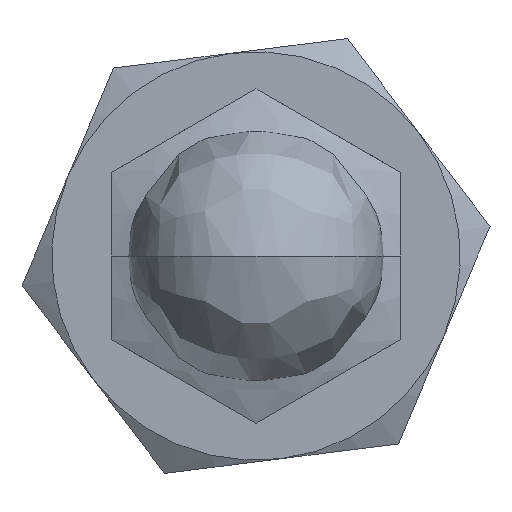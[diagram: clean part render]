
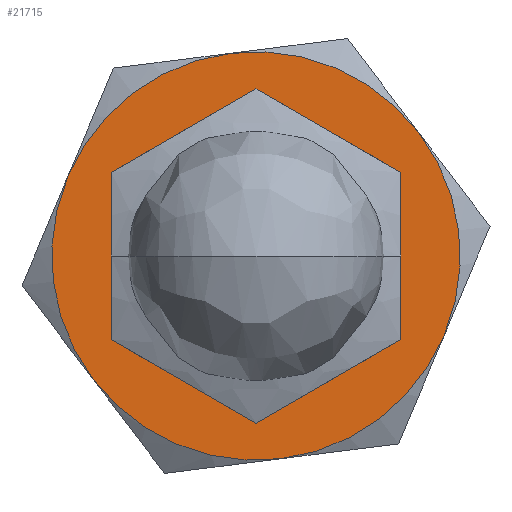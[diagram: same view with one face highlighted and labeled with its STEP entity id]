
A CAD part, front view. The second image highlights one B-rep face of the part: STEP entity #21715.
In plain terms, the highlighted planar face has unit normal (0, -1, 0).
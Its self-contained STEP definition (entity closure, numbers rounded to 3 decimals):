
#339 = VERTEX_POINT ( 'NONE', #10458 ) ;
#751 = CARTESIAN_POINT ( 'NONE',  ( -86.885, 130.093, 41.709 ) ) ;
#994 = CARTESIAN_POINT ( 'NONE',  ( -77.327, 130.093, 48.964 ) ) ;
#1029 = AXIS2_PLACEMENT_3D ( 'NONE', #751, #19630, #13895 ) ;
#1583 = CARTESIAN_POINT ( 'NONE',  ( -80.513, 130.093, 46.545 ) ) ;
#1663 = DIRECTION ( 'NONE',  ( -0.797, 0., -0.605 ) ) ;
#2679 = DIRECTION ( 'NONE',  ( -0.797, 0., -0.605 ) ) ;
#2828 = CARTESIAN_POINT ( 'NONE',  ( -75.823, 130.093, 37.058 ) ) ;
#3442 = AXIS2_PLACEMENT_3D ( 'NONE', #18040, #14018, #2679 ) ;
#3910 = EDGE_CURVE ( 'NONE', #22619, #339, #5573, .T. ) ;
#4039 = AXIS2_PLACEMENT_3D ( 'NONE', #19677, #10237, #19593 ) ;
#4120 = FACE_OUTER_BOUND ( 'NONE', #8388, .T. ) ;
#5007 = ORIENTED_EDGE ( 'NONE', *, *, #7957, .T. ) ;
#5329 = DIRECTION ( 'NONE',  ( -0.797, 0., -0.605 ) ) ;
#5573 = CIRCLE ( 'NONE', #8222, 12. ) ;
#5600 = CIRCLE ( 'NONE', #1029, 12. ) ;
#6002 = CARTESIAN_POINT ( 'NONE',  ( -96.444, 130.093, 34.454 ) ) ;
#6044 = EDGE_CURVE ( 'NONE', #339, #21172, #13889, .T. ) ;
#6179 = EDGE_CURVE ( 'NONE', #16906, #15597, #13569, .T. ) ;
#6201 = DIRECTION ( 'NONE',  ( 0., 1., 0. ) ) ;
#6259 = VERTEX_POINT ( 'NONE', #8029 ) ;
#6428 = CARTESIAN_POINT ( 'NONE',  ( -86.885, 130.093, 41.709 ) ) ;
#6754 = FACE_BOUND ( 'NONE', #8001, .T. ) ;
#7055 = EDGE_CURVE ( 'NONE', #12756, #6259, #9708, .T. ) ;
#7297 = CIRCLE ( 'NONE', #18550, 12. ) ;
#7637 = CARTESIAN_POINT ( 'NONE',  ( -86.885, 130.093, 41.709 ) ) ;
#7957 = EDGE_CURVE ( 'NONE', #6259, #12756, #9076, .T. ) ;
#8001 = EDGE_LOOP ( 'NONE', ( #13045, #5007 ) ) ;
#8029 = CARTESIAN_POINT ( 'NONE',  ( -93.258, 130.093, 36.872 ) ) ;
#8132 = DIRECTION ( 'NONE',  ( -0.797, 0., -0.605 ) ) ;
#8186 = CARTESIAN_POINT ( 'NONE',  ( -86.885, 130.093, 41.709 ) ) ;
#8222 = AXIS2_PLACEMENT_3D ( 'NONE', #6428, #12100, #8345 ) ;
#8345 = DIRECTION ( 'NONE',  ( -0.797, 0., -0.605 ) ) ;
#8388 = EDGE_LOOP ( 'NONE', ( #14528, #8601, #14733, #12520, #21257, #13362 ) ) ;
#8601 = ORIENTED_EDGE ( 'NONE', *, *, #6044, .F. ) ;
#9076 = CIRCLE ( 'NONE', #4039, 8. ) ;
#9374 = DIRECTION ( 'NONE',  ( 0., 1., 0. ) ) ;
#9700 = AXIS2_PLACEMENT_3D ( 'NONE', #13071, #9374, #1663 ) ;
#9708 = CIRCLE ( 'NONE', #9700, 8. ) ;
#10173 = AXIS2_PLACEMENT_3D ( 'NONE', #7637, #19125, #11650 ) ;
#10237 = DIRECTION ( 'NONE',  ( 0., 1., 0. ) ) ;
#10458 = CARTESIAN_POINT ( 'NONE',  ( -85.382, 130.093, 29.803 ) ) ;
#10541 = CIRCLE ( 'NONE', #3442, 12. ) ;
#11493 = CARTESIAN_POINT ( 'NONE',  ( -88.389, 130.093, 53.614 ) ) ;
#11650 = DIRECTION ( 'NONE',  ( -0.797, 0., -0.605 ) ) ;
#11970 = CARTESIAN_POINT ( 'NONE',  ( -86.885, 130.093, 41.709 ) ) ;
#12100 = DIRECTION ( 'NONE',  ( 0., 1., 0. ) ) ;
#12520 = ORIENTED_EDGE ( 'NONE', *, *, #16134, .F. ) ;
#12756 = VERTEX_POINT ( 'NONE', #1583 ) ;
#13045 = ORIENTED_EDGE ( 'NONE', *, *, #7055, .T. ) ;
#13071 = CARTESIAN_POINT ( 'NONE',  ( -86.885, 130.093, 41.709 ) ) ;
#13147 = AXIS2_PLACEMENT_3D ( 'NONE', #11970, #17565, #8132 ) ;
#13362 = ORIENTED_EDGE ( 'NONE', *, *, #6179, .F. ) ;
#13569 = CIRCLE ( 'NONE', #13147, 12. ) ;
#13617 = AXIS2_PLACEMENT_3D ( 'NONE', #20340, #18403, #5329 ) ;
#13889 = CIRCLE ( 'NONE', #10173, 12. ) ;
#13895 = DIRECTION ( 'NONE',  ( -0.797, 0., -0.605 ) ) ;
#14018 = DIRECTION ( 'NONE',  ( 0., 1., 0. ) ) ;
#14421 = CARTESIAN_POINT ( 'NONE',  ( -97.948, 130.093, 46.359 ) ) ;
#14528 = ORIENTED_EDGE ( 'NONE', *, *, #21549, .F. ) ;
#14733 = ORIENTED_EDGE ( 'NONE', *, *, #3910, .F. ) ;
#15597 = VERTEX_POINT ( 'NONE', #11493 ) ;
#16134 = EDGE_CURVE ( 'NONE', #17872, #22619, #7297, .T. ) ;
#16198 = EDGE_CURVE ( 'NONE', #15597, #17872, #10541, .T. ) ;
#16588 = PLANE ( 'NONE',  #13617 ) ;
#16906 = VERTEX_POINT ( 'NONE', #14421 ) ;
#17565 = DIRECTION ( 'NONE',  ( 0., 1., 0. ) ) ;
#17872 = VERTEX_POINT ( 'NONE', #994 ) ;
#18040 = CARTESIAN_POINT ( 'NONE',  ( -86.885, 130.093, 41.709 ) ) ;
#18403 = DIRECTION ( 'NONE',  ( 0., -1., 0. ) ) ;
#18550 = AXIS2_PLACEMENT_3D ( 'NONE', #8186, #6201, #21289 ) ;
#19125 = DIRECTION ( 'NONE',  ( 0., 1., 0. ) ) ;
#19593 = DIRECTION ( 'NONE',  ( -0.797, 0., -0.605 ) ) ;
#19630 = DIRECTION ( 'NONE',  ( 0., 1., 0. ) ) ;
#19677 = CARTESIAN_POINT ( 'NONE',  ( -86.885, 130.093, 41.709 ) ) ;
#20340 = CARTESIAN_POINT ( 'NONE',  ( -78.508, 130.093, 30.671 ) ) ;
#21172 = VERTEX_POINT ( 'NONE', #6002 ) ;
#21257 = ORIENTED_EDGE ( 'NONE', *, *, #16198, .F. ) ;
#21289 = DIRECTION ( 'NONE',  ( 0.797, 0., 0.605 ) ) ;
#21549 = EDGE_CURVE ( 'NONE', #21172, #16906, #5600, .T. ) ;
#21715 = ADVANCED_FACE ( 'NONE', ( #6754, #4120 ), #16588, .T. ) ;
#22619 = VERTEX_POINT ( 'NONE', #2828 ) ;
